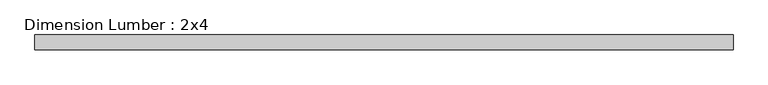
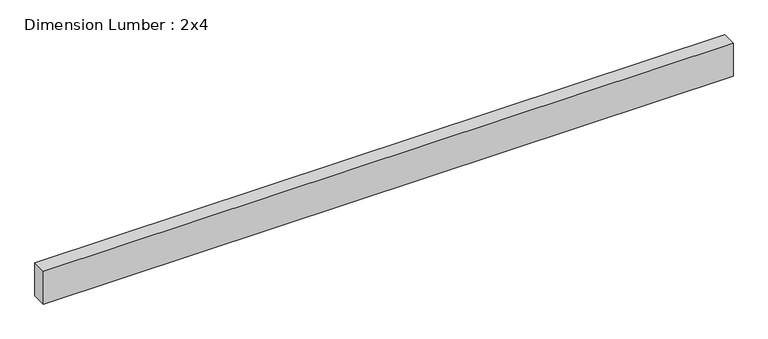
"""IFC4 building model written with IfcOpenShell, lengths in millimetres: beam geometry, Dimension Lumber : 2x4."""

from ifc_helpers import new_model, si_unit, frame, origin, place, context, project, spatial, polyline, outline, extrude, source, transform, mapped, element, save


def dimension_lumber_2x4_fd4f4c12(model_context):
    return source(origin(), model_context, "Body", "SweptSolid", [
        extrude(outline(polyline([(885.3395055, 19.05), (885.3395055, -19.05), (-885.3395055, -19.05), (-885.3395055, 19.05), (885.3395055, 19.05)])), frame((0.0, 0.0, -44.45), z_axis=(0.0, 0.0, 1.0), x_axis=(1.0, 0.0, 0.0)), (0.0, 0.0, 1.0), 88.9),
    ])


if __name__ == "__main__":
    model = new_model("IFC4")
    model_context = context("Model", 3, world=origin())
    ifc_project = project(units=[si_unit("LENGTHUNIT", "METRE", prefix="MILLI")], contexts=[model_context])
    site = spatial("IfcSite", under=ifc_project)
    building = spatial("IfcBuilding", under=site)
    placement = place(None, origin())
    dimension_lumber_2x4_shape = dimension_lumber_2x4_fd4f4c12(model_context)
    element("IfcBeam", 1, ObjectType="Dimension Lumber : 2x4", at=placement, inside=building, context=model_context, shape_type="MappedRepresentation", body=[
        mapped(dimension_lumber_2x4_shape, transform((0.0, 0.0, 0.0), x_axis=(1.0, 0.0, 0.0), y_axis=(0.0, 1.0, 0.0), z_axis=(0.0, 0.0, 1.0))),
    ])
    save(model, "model.ifc")
